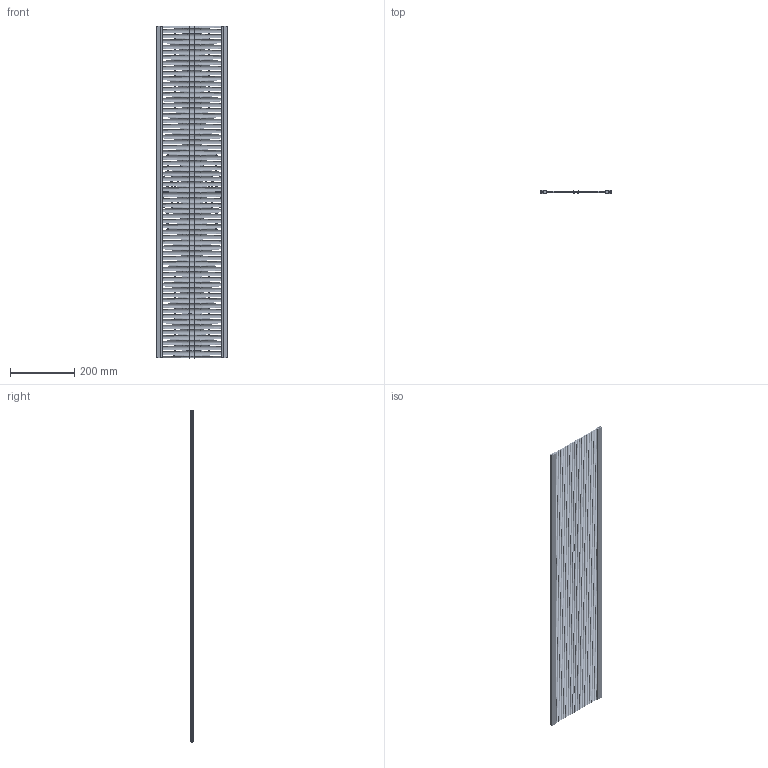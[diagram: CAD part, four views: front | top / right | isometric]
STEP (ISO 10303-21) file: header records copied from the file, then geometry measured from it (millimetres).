
FILE_DESCRIPTION(('Open CASCADE Model'),'2;1');
FILE_NAME('Open CASCADE Shape Model','2025-02-21T16:18:47',('Author'),( 'Open CASCADE'),'Open CASCADE STEP processor 7.8','Open CASCADE 7.8' ,'Unknown');
FILE_SCHEMA(('AUTOMOTIVE_DESIGN { 1 0 10303 214 1 1 1 1 }'));
Length unit declared in the file: millimetre
Products named in the file (2): Compound1; Solid1
Assembly tree (2 placements, depth 2):
  Compound1
    Solid1  x2
Bounding box: 220 x 9.5 x 1036.29 mm (x, y, z)
Volume: 825945.1 mm3; surface area: 710677.7 mm2
Topology: 2 solids, 2 shells, 566 faces, 3294 edges, 2192 vertices
Faces by surface type: cone 538, plane 28
Entity records: 28896 total; most frequent: CARTESIAN_POINT 15358, ORIENTED_EDGE 3294, DIRECTION 2758, EDGE_CURVE 1647, AXIS2_PLACEMENT_3D 1362, VERTEX_POINT 1096, CIRCLE 1076, FACE_BOUND 551
